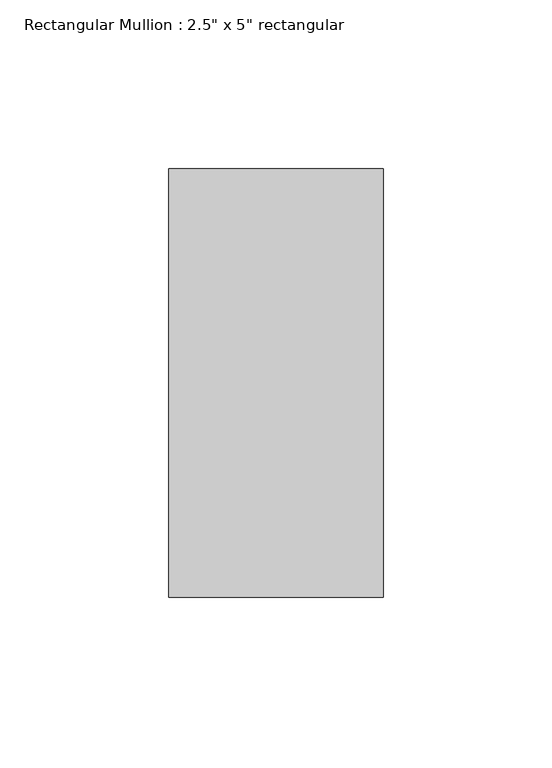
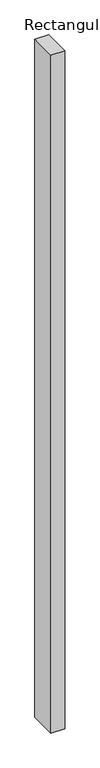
"""IFC4 building model written with IfcOpenShell, lengths in millimetres: member geometry."""

import ifcopenshell
import ifcopenshell.guid

model = None  # the IFC model being written
_history = None  # IfcOwnerHistory: only IFC2X3 demands one
_inside = {}  # id of a spatial element -> (the spatial element, [elements in it])
_under = {}  # id of a project, library or spatial element -> (it, [spatial elements below it])
_declared = {}  # id of a project -> (the project, [libraries it declares])
_typed = {}  # id of a type object -> (the type object, [elements of that type])
_made_of = {}  # id of a material, layer set ... -> (it, [elements and type objects made of it])


def new_model(schema):
    """Start an empty IFC model of exactly this schema.

    Asked for "IFC4X3", IfcOpenShell would pick the latest addendum, in which some entities
    have other attributes; the version numbers below select the first issue.
    IFC2X3 requires an IfcOwnerHistory on every rooted entity: one is made here for all.
    """
    global model, _history
    if schema == "IFC4X3":
        model = ifcopenshell.file(schema_version=(4, 3, 0, 0))
    else:
        model = ifcopenshell.file(schema=schema)
    _inside.clear()
    _under.clear()
    _declared.clear()
    _typed.clear()
    _made_of.clear()
    _history = None
    if model.schema == "IFC2X3":
        org = make("IfcOrganization", Name="unknown")
        user = make(
            "IfcPersonAndOrganization",
            ThePerson=make("IfcPerson", FamilyName="unknown"),
            TheOrganization=org,
        )
        app = make(
            "IfcApplication",
            ApplicationDeveloper=org,
            Version="unknown",
            ApplicationFullName="unknown",
            ApplicationIdentifier="unknown",
        )
        _history = make(
            "IfcOwnerHistory",
            OwningUser=user,
            OwningApplication=app,
            ChangeAction="ADDED",
            CreationDate=0,
        )
    return model


def make(cls, **values):
    """One entity of the class cls with the attributes given. An attribute that is None is left unset."""
    return model.create_entity(
        cls, **{name: value for name, value in values.items() if value is not None}
    )


def rooted(cls, **values):
    """An entity with a GlobalId (a new one), such as an element, a storey or a relation."""
    return make(cls, GlobalId=ifcopenshell.guid.new(), OwnerHistory=_history, **values)


def si_unit(unit_type, name, prefix=None):
    """IfcSIUnit, for example si_unit("LENGTHUNIT", "METRE", prefix="MILLI")."""
    return make("IfcSIUnit", UnitType=unit_type, Prefix=prefix, Name=name)


def assignment(units):
    """IfcUnitAssignment: the units of a project."""
    return None if units is None else make("IfcUnitAssignment", Units=units)


def point(xyz):
    """IfcCartesianPoint."""
    return None if xyz is None else make("IfcCartesianPoint", Coordinates=xyz)


def direction(xyz):
    """IfcDirection."""
    return None if xyz is None else make("IfcDirection", DirectionRatios=xyz)


def frame(location, z_axis=None, x_axis=None):
    """IfcAxis2Placement3D, a coordinate frame: its origin and axes. An axis left out is left unset."""
    return make(
        "IfcAxis2Placement3D",
        Location=point(location),
        Axis=direction(z_axis),
        RefDirection=direction(x_axis),
    )


def origin():
    """The frame at (0, 0, 0) with its axes left unset."""
    return frame((0.0, 0.0, 0.0))


def place(relative_to, where):
    """IfcLocalPlacement: puts the frame where relative to a parent placement (None: the world)."""
    return make(
        "IfcLocalPlacement", PlacementRelTo=relative_to, RelativePlacement=where
    )


def context(
    kind, dimensions, precision=None, world=None, true_north=None, identifier=None
):
    """IfcGeometricRepresentationContext, for example the 3D "Model" context."""
    return make(
        "IfcGeometricRepresentationContext",
        ContextIdentifier=identifier,
        ContextType=kind,
        CoordinateSpaceDimension=dimensions,
        Precision=precision,
        WorldCoordinateSystem=world,
        TrueNorth=true_north,
    )


def project(units=None, contexts=None):
    """IfcProject with its units and contexts."""
    return rooted(
        "IfcProject",
        Name="project",
        RepresentationContexts=contexts,
        UnitsInContext=assignment(units),
    )


def spatial(cls, under=None, at=None, **own):
    """A site, building, storey or space (cls), placed at a placement, below another one or the project."""
    s = rooted(cls, ObjectPlacement=at, **own)
    if under is not None:
        _under.setdefault(under.id(), (under, []))[1].append(s)
    return s


def polyline(points):
    """IfcPolyline through the points."""
    return make("IfcPolyline", Points=[point(p) for p in points])


def outline(outer, holes=None, kind="AREA"):
    """IfcArbitraryClosedProfileDef: a profile drawn as a closed curve; with holes, ...WithVoids."""
    if holes is None:
        return make("IfcArbitraryClosedProfileDef", ProfileType=kind, OuterCurve=outer)
    return make(
        "IfcArbitraryProfileDefWithVoids",
        ProfileType=kind,
        OuterCurve=outer,
        InnerCurves=holes,
    )


def extrude(swept, where, along, depth):
    """IfcExtrudedAreaSolid: the profile swept, set in the frame where, extruded along a direction by depth."""
    return make(
        "IfcExtrudedAreaSolid",
        SweptArea=swept,
        Position=where,
        ExtrudedDirection=direction(along),
        Depth=depth,
    )


def shape(context_of_items, identifier, shape_type, items):
    """IfcShapeRepresentation: the items that make up one representation, for example the "Body"."""
    return make(
        "IfcShapeRepresentation",
        ContextOfItems=context_of_items,
        RepresentationIdentifier=identifier,
        RepresentationType=shape_type,
        Items=items,
    )


def source(mapping_origin, context_of_items, identifier, shape_type, items):
    """IfcRepresentationMap: a shape defined once, which mapped items show again and again."""
    return make(
        "IfcRepresentationMap",
        MappingOrigin=mapping_origin,
        MappedRepresentation=shape(context_of_items, identifier, shape_type, items),
    )


def transform(
    local_origin,
    x_axis=None,
    y_axis=None,
    z_axis=None,
    scale=None,
    scale2=None,
    scale3=None,
    uniform=True,
):
    """IfcCartesianTransformationOperator3D, or its non-uniform kind. x_axis, y_axis, z_axis: its Axis1, 2, 3."""
    if uniform:
        return make(
            "IfcCartesianTransformationOperator3D",
            Axis1=direction(x_axis),
            Axis2=direction(y_axis),
            LocalOrigin=point(local_origin),
            Scale=scale,
            Axis3=direction(z_axis),
        )
    return make(
        "IfcCartesianTransformationOperator3DnonUniform",
        Axis1=direction(x_axis),
        Axis2=direction(y_axis),
        LocalOrigin=point(local_origin),
        Scale=scale,
        Axis3=direction(z_axis),
        Scale2=scale2,
        Scale3=scale3,
    )


def mapped(mapping_source, mapping_target):
    """IfcMappedItem: shows the shape of a source again, moved by a transform."""
    return make(
        "IfcMappedItem", MappingSource=mapping_source, MappingTarget=mapping_target
    )


def made_of(thing, what):
    """Note that an element or type object is made of a material, layer set ...; save() writes the relation."""
    if what is not None:
        _made_of.setdefault(what.id(), (what, []))[1].append(thing)
    return thing


def element(
    cls,
    number,
    at=None,
    inside=None,
    cuts=None,
    type_object=None,
    material=None,
    context=None,
    identifier="Body",
    shape_type=None,
    held_by="IfcProductDefinitionShape",
    body=None,
    shapes=None,
    **own,
):
    """One element of the class cls, such as IfcWall. Its Tag is "e" and its number.

    at: its placement. inside: the storey or other place that contains it. cuts: it is an
    opening in that element (IfcRelVoidsElement). A single representation is given by context,
    identifier, shape_type and body (its items); several are given by shapes. held_by: the class
    of the entity that holds the representations. save() writes the other relations.
    """
    e = rooted(cls, Tag="e%d" % number, ObjectPlacement=at, **own)
    if body is not None:
        shapes = [shape(context, identifier, shape_type, body)]
    if shapes is not None:
        e.Representation = make(held_by, Representations=shapes)
    if inside is not None:
        _inside.setdefault(inside.id(), (inside, []))[1].append(e)
    if cuts is not None:
        rooted(
            "IfcRelVoidsElement", RelatingBuildingElement=cuts, RelatedOpeningElement=e
        )
    if type_object is not None:
        _typed.setdefault(type_object.id(), (type_object, []))[1].append(e)
    return made_of(e, material)


def aggregate(whole, parts):
    """IfcRelAggregates: a whole, such as a stair, and the parts it consists of."""
    return rooted("IfcRelAggregates", RelatingObject=whole, RelatedObjects=parts)


def save(model, path):
    """Write the relations noted so far, then the file.

    IfcRelAggregates (storeys below a building ...), IfcRelContainedInSpatialStructure (elements
    in a storey), IfcRelDefinesByType, IfcRelAssociatesMaterial and IfcRelDeclares: one each for
    every whole, place, type object, material and project.
    """
    for whole, parts in _under.values():
        aggregate(whole, parts)
    for where, things in _inside.values():
        rooted(
            "IfcRelContainedInSpatialStructure",
            RelatedElements=things,
            RelatingStructure=where,
        )
    for kind, things in _typed.values():
        rooted("IfcRelDefinesByType", RelatedObjects=things, RelatingType=kind)
    for what, things in _made_of.values():
        rooted("IfcRelAssociatesMaterial", RelatedObjects=things, RelatingMaterial=what)
    for by, libraries in _declared.values():
        rooted("IfcRelDeclares", RelatingContext=by, RelatedDefinitions=libraries)
    model.write(path)


def member_4ad3c4be(model_context):
    return source(origin(), model_context, "Body", "SweptSolid", [
        extrude(outline(polyline([(31.75, 63.5), (31.75, -63.5), (-31.75, -63.5), (-31.75, 63.5), (31.75, 63.5)])), frame((0.0, 0.0, -3298.3821084), z_axis=(0.0, 0.0, 1.0), x_axis=(1.0, 0.0, 0.0)), (0.0, 0.0, 1.0), 3298.3821084),
    ])


if __name__ == "__main__":
    model = new_model("IFC4")
    model_context = context("Model", 3, world=origin())
    ifc_project = project(units=[si_unit("LENGTHUNIT", "METRE", prefix="MILLI")], contexts=[model_context])
    site = spatial("IfcSite", under=ifc_project)
    building = spatial("IfcBuilding", under=site)
    placement = place(None, origin())
    member_shape = member_4ad3c4be(model_context)
    element("IfcMember", 1, ObjectType="Rectangular Mullion : 2.5\" x 5\" rectangular", at=placement, inside=building, context=model_context, shape_type="MappedRepresentation", body=[
        mapped(member_shape, transform((0.0, 0.0, 0.0), x_axis=(1.0, 0.0, 0.0), y_axis=(0.0, 1.0, 0.0), z_axis=(0.0, 0.0, 1.0))),
    ])
    save(model, "model.ifc")
